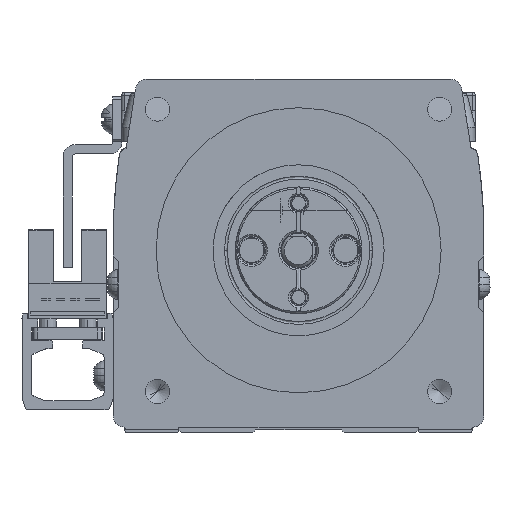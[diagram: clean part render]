
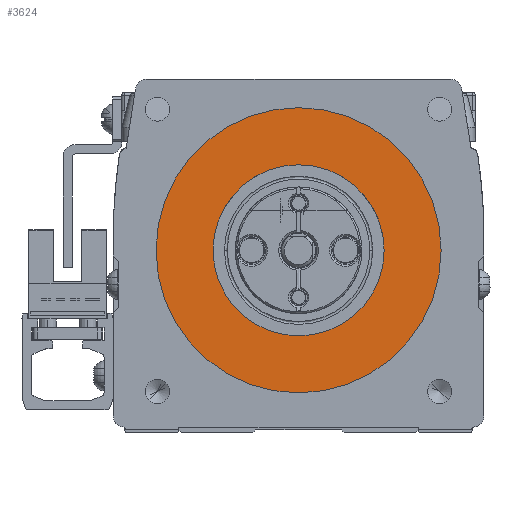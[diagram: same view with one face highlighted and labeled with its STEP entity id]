
A CAD part, left-side view. The second image highlights one B-rep face of the part: STEP entity #3624.
In plain terms, the highlighted planar face has unit normal (-1, 0, 0).
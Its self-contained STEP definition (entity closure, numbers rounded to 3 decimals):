
#3624=ADVANCED_FACE('',(#6467,#6468),#6469,.F.);
#6467=FACE_BOUND('',#12442,.T.);
#6468=FACE_OUTER_BOUND('',#12443,.T.);
#6469=PLANE('',#12444);
#12442=EDGE_LOOP('',(#20652,#20653));
#12443=EDGE_LOOP('',(#20654,#20655));
#12444=AXIS2_PLACEMENT_3D('',#20656,#20657,#20658);
#20652=ORIENTED_EDGE('',*,*,#43095,.T.);
#20653=ORIENTED_EDGE('',*,*,#43193,.T.);
#20654=ORIENTED_EDGE('',*,*,#43226,.T.);
#20655=ORIENTED_EDGE('',*,*,#43087,.T.);
#20656=CARTESIAN_POINT('',(-76.5,0.,0.));
#20657=DIRECTION('',(1.0,0.,0.));
#20658=DIRECTION('',(0.,1.0,0.));
#43087=EDGE_CURVE('',#50384,#50381,#50385,.T.);
#43095=EDGE_CURVE('',#50398,#50395,#50399,.T.);
#43193=EDGE_CURVE('',#50395,#50398,#50560,.T.);
#43226=EDGE_CURVE('',#50381,#50384,#50617,.T.);
#50381=VERTEX_POINT('',#62451);
#50384=VERTEX_POINT('',#62455);
#50385=CIRCLE('',#62456,25.0);
#50395=VERTEX_POINT('',#62491);
#50398=VERTEX_POINT('',#62495);
#50399=CIRCLE('',#62496,15.0);
#50560=CIRCLE('',#62778,15.0);
#50617=CIRCLE('',#62914,25.0);
#62451=CARTESIAN_POINT('',(-76.5,25.,0.));
#62455=CARTESIAN_POINT('',(-76.5,-25.,0.));
#62456=AXIS2_PLACEMENT_3D('',#80921,#80922,#80923);
#62491=CARTESIAN_POINT('',(-76.5,15.0,0.));
#62495=CARTESIAN_POINT('',(-76.5,-15.,0.));
#62496=AXIS2_PLACEMENT_3D('',#80931,#80932,#80933);
#62778=AXIS2_PLACEMENT_3D('',#81091,#81092,#81093);
#62914=AXIS2_PLACEMENT_3D('',#81148,#81149,#81150);
#80921=CARTESIAN_POINT('',(-76.5,0.,0.));
#80922=DIRECTION('',(-1.0,0.,0.));
#80923=DIRECTION('',(0.,1.0,0.));
#80931=CARTESIAN_POINT('',(-76.5,0.,0.));
#80932=DIRECTION('',(1.0,0.,0.));
#80933=DIRECTION('',(0.,1.0,0.));
#81091=CARTESIAN_POINT('',(-76.5,0.,0.));
#81092=DIRECTION('',(1.0,0.,0.));
#81093=DIRECTION('',(0.,1.0,0.));
#81148=CARTESIAN_POINT('',(-76.5,0.,0.));
#81149=DIRECTION('',(-1.0,0.,0.));
#81150=DIRECTION('',(0.,1.0,0.));
